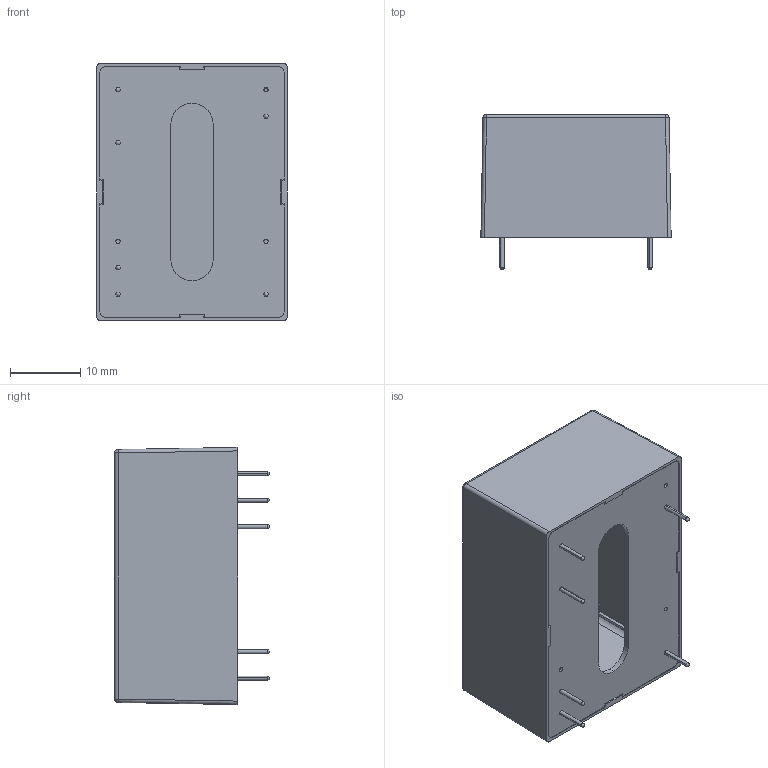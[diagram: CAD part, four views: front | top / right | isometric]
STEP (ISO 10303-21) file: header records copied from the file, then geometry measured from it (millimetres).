
FILE_DESCRIPTION (( 'STEP AP214' ), '1' );
FILE_NAME ('tmpm04single.STEP', '2014-09-15T14:11:28', ( '' ), ( '' ), 'SwSTEP 2.0', 'SolidWorks 2013', '' );
FILE_SCHEMA (( 'AUTOMOTIVE_DESIGN' ));
Length unit declared in the file: millimetre
Products named in the file (4): Case; Base; Pin 7; tmpm04single
Assembly tree (8 placements, depth 2):
  tmpm04single
    Pin 7  x6
    Base
    Case
Bounding box: 27 x 21.95 x 36.5 mm (x, y, z)
Surface area: 6424.8 mm2
Topology: 6 solids, 15 shells, 319 faces, 836 edges, 542 vertices
Faces by surface type: plane 164, cylinder 89, bspline 48, cone 18
Entity records: 9822 total; most frequent: CARTESIAN_POINT 3173, ORIENTED_EDGE 1307, DIRECTION 1266, EDGE_CURVE 734, VECTOR 508, LINE 508, VERTEX_POINT 482, AXIS2_PLACEMENT_3D 379
